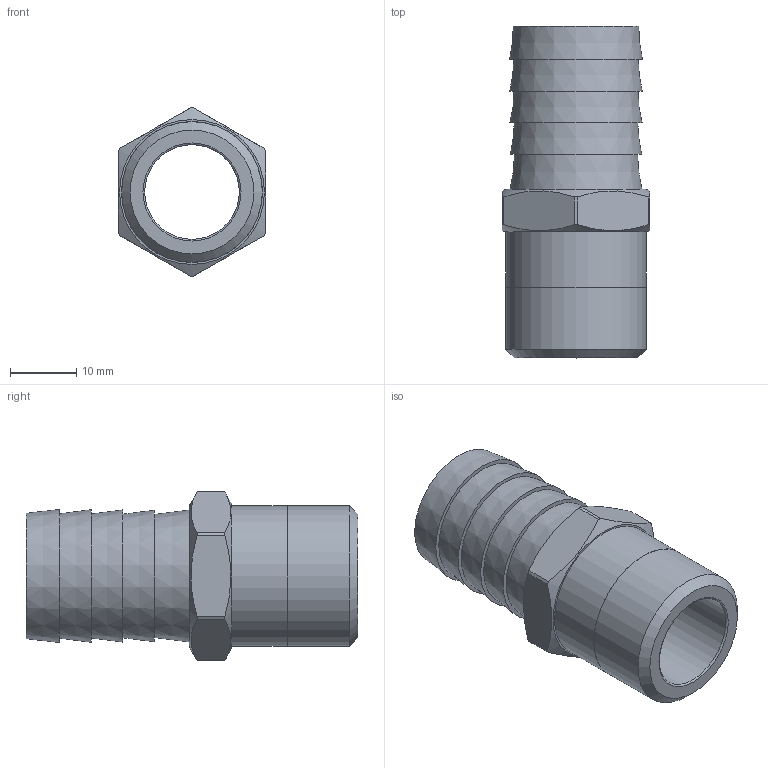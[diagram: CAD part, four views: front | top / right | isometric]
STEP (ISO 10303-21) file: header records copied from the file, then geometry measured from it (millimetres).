
FILE_DESCRIPTION(/* description */ (''),/* implementation_level */ '2;1');
FILE_NAME(/* name */ 'C:/Users/drich/Desktop/MB75-8 v1.step',/* time_stamp */ '2020-02-02T14:56:08-06:00',/* author */ (''),/* organization */ (''),/* preprocessor_version */ 'ST-DEVELOPER v18',/* originating_system */ 'Autodesk Translation Framework v8.12.0.6',/* authorisation */ '');
FILE_SCHEMA (('AUTOMOTIVE_DESIGN { 1 0 10303 214 3 1 1 }'));
Length unit declared in the file: inch
Products named in the file (2): MB75-8; 75 BARB ONLY
Assembly tree (1 placements, depth 2):
  MB75-8
    75 BARB ONLY
Bounding box: 22.23 x 50.04 x 25.4 mm (x, y, z)
Volume: 7261.2 mm3; surface area: 6412.9 mm2
Topology: 2 solids, 2 shells, 36 faces, 95 edges, 68 vertices
Faces by surface type: plane 15, cone 10, cylinder 10, torus 1
Full cylindrical faces by diameter (mm): 14.275 x1, 16.51 x1, 21.209 x1, 21.26 x1
Entity records: 1227 total; most frequent: CARTESIAN_POINT 226, DIRECTION 218, ORIENTED_EDGE 190, AXIS2_PLACEMENT_3D 96, EDGE_CURVE 95, VERTEX_POINT 68, CIRCLE 57, EDGE_LOOP 45
